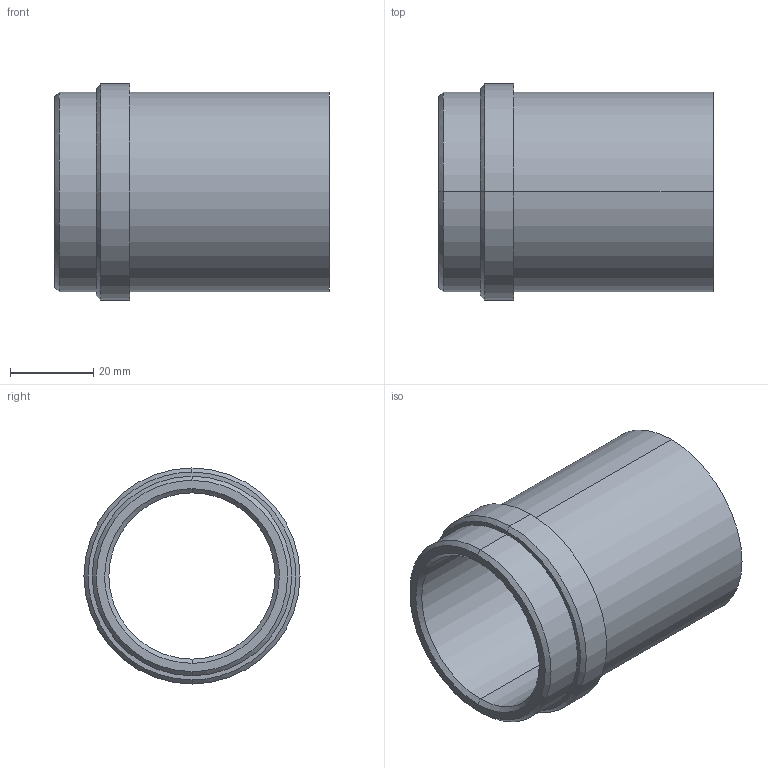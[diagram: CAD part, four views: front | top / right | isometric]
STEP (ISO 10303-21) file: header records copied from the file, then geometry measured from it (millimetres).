
FILE_DESCRIPTION(('CATIA V5 STEP Exchange'),'2;1');
FILE_NAME('C:\Users\Utente\Desktop\IO LAVORO\3D X SITO CF\X SITO\PLASTICA\358\358-40x66.stp','2021-04-09T14:55:55+00:00',('none'),('none'),'CATIA Version 5 Release 20 GA (IN-10)','CATIA V5 STEP AP203','none');
FILE_SCHEMA(('CONFIG_CONTROL_DESIGN'));
Length unit declared in the file: millimetre
Products named in the file (1): 358-40X66
Bounding box: 66 x 52 x 52 mm (x, y, z)
Volume: 38676.9 mm3; surface area: 19716 mm2
Topology: 1 solids, 1 shells, 20 faces, 64 edges, 48 vertices
Faces by surface type: cylinder 8, cone 6, plane 4, torus 2
Entity records: 906 total; most frequent: CARTESIAN_POINT 301, ORIENTED_EDGE 128, DIRECTION 92, EDGE_CURVE 64, AXIS2_PLACEMENT_3D 59, VERTEX_POINT 48, CIRCLE 38, EDGE_LOOP 24
